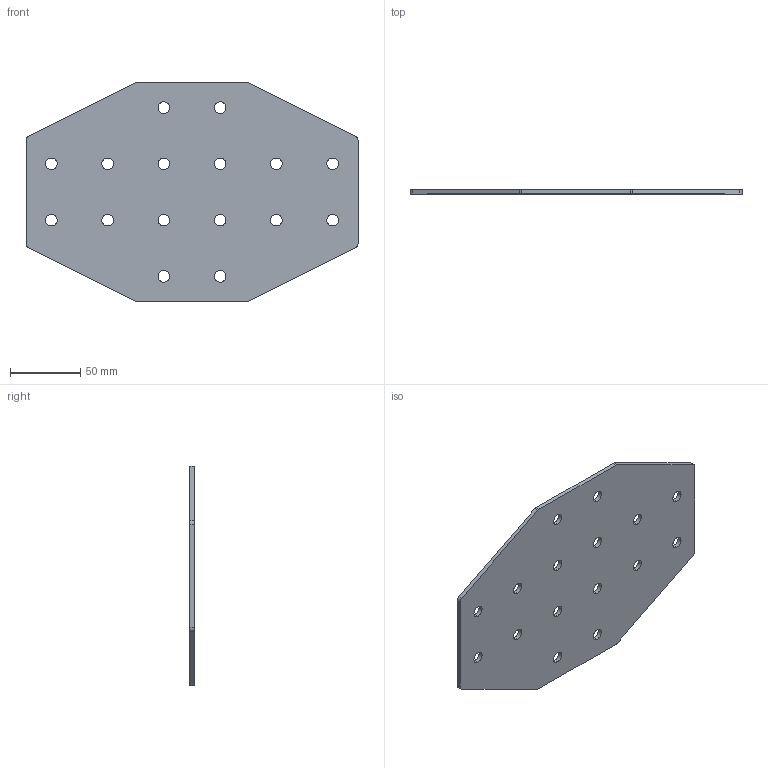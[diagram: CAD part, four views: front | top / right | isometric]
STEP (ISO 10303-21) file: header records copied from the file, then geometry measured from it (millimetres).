
FILE_DESCRIPTION (( 'STEP AP203' ), '1' );
FILE_NAME ('ﾕ-16-ﾓ-40.STEP', '2016-07-23T10:06:43', ( '' ), ( '' ), 'SwSTEP 2.0', 'SolidWorks 2014', '' );
FILE_SCHEMA (( 'CONFIG_CONTROL_DESIGN' ));
Length unit declared in the file: millimetre
Products named in the file (1): ﾕ-16-ﾓ-40
Bounding box: 236 x 3 x 156 mm (x, y, z)
Surface area: 62845.3 mm2 (no closed solid volume)
Topology: 0 solids, 1 shells, 50 faces, 144 edges, 96 vertices
Faces by surface type: cylinder 40, plane 10
Entity records: 1829 total; most frequent: DIRECTION 326, CARTESIAN_POINT 291, ORIENTED_EDGE 288, EDGE_CURVE 144, AXIS2_PLACEMENT_3D 131, VERTEX_POINT 96, EDGE_LOOP 82, CIRCLE 80
